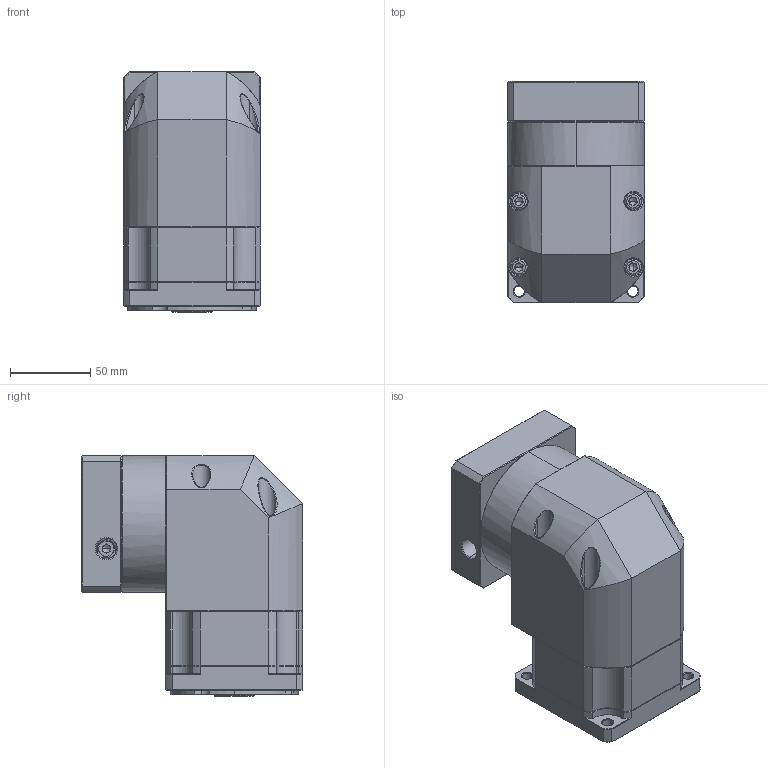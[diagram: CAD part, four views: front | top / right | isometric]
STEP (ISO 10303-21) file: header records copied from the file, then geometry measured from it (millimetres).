
FILE_DESCRIPTION (( 'STEP AP214' ), '1' );
FILE_NAME ('ZBR090-K15-L1-P2-16-80-100-M6.step', '2023-08-19T02:09:08', ( '' ), ( '' ), 'SwSTEP 2.0', 'SolidWorks 2016', '' );
FILE_SCHEMA (( 'AUTOMOTIVE_DESIGN' ));
Length unit declared in the file: millimetre
Products named in the file (1): ZBR090-K15-L1-P2-16-80-100-M6
Bounding box: 85 x 137.6 x 150 mm (x, y, z)
Volume: 1167595.6 mm3; surface area: 128536.7 mm2
Topology: 5 solids, 5 shells, 2346 faces, 6127 edges, 3874 vertices
Faces by surface type: plane 1148, bspline 414, cylinder 411, cone 349, torus 24
Entity records: 123767 total; most frequent: CARTESIAN_POINT 43737, ORIENTED_EDGE 12182, DIRECTION 9741, EDGE_CURVE 6091, LINE 3903, VECTOR 3903, VERTEX_POINT 3874, AXIS2_PLACEMENT_3D 2919
